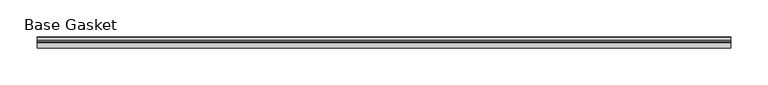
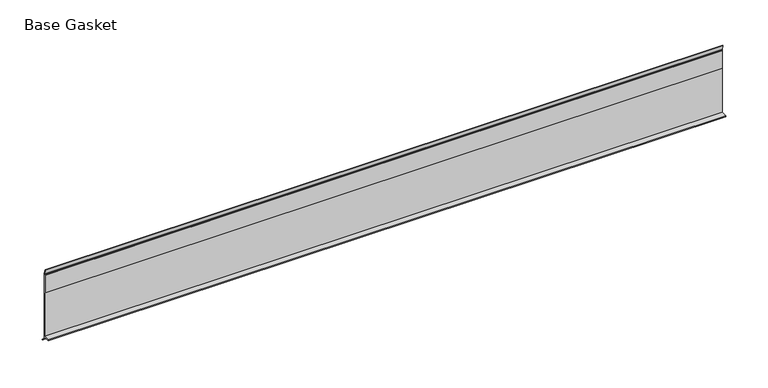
"""IFC4 building model written with IfcOpenShell, lengths in millimetres: furniture geometry, Gasket-Teknion-FHGB-AI_Healthcare-R2021 : Base Gasket."""

from ifc_helpers import new_model, si_unit, frame, origin, place, context, project, spatial, polyline, outline, extrude, source, transform, mapped, element, save


def base_gasket_d89d8d56(model_context):
    return source(origin(), model_context, "Body", "SweptSolid", [
        extrude(outline(polyline([(3.7283812, 98.4568417), (3.7283812, 4.3498477), (7.4222115, 0.6560174), (7.8482342, 0.0), (6.8281054, 0.3520979), (2.2043812, 4.3498477), (2.1334222, 6.3818476), (-6.2405171, 6.3818476), (-6.2405171, 7.9398773), (2.2043812, 7.9398773), (2.2043812, 71.4693447), (1.4106313, 71.4693447), (1.4106313, 96.8693477), (2.2043812, 96.8693477), (2.2043812, 98.4568417), (0.6755308, 104.4162708), (0.6755308, 105.2002997), (1.1891543, 104.587663), (3.7283812, 98.4568417)])), frame((-1527.8982117, 0.0, 0.0), z_axis=(1.0, 0.0, 0.0), x_axis=(0.0, 1.0, 0.0)), (0.0, 0.0, 1.0), 925.1316603),
    ])


if __name__ == "__main__":
    model = new_model("IFC4")
    model_context = context("Model", 3, world=origin())
    ifc_project = project(units=[si_unit("LENGTHUNIT", "METRE", prefix="MILLI")], contexts=[model_context])
    site = spatial("IfcSite", under=ifc_project)
    building = spatial("IfcBuilding", under=site)
    placement = place(None, origin())
    base_gasket_shape = base_gasket_d89d8d56(model_context)
    element("IfcFurniture", 1, ObjectType="Gasket-Teknion-FHGB-AI_Healthcare-R2021 : Base Gasket", at=placement, inside=building, context=model_context, shape_type="MappedRepresentation", body=[
        mapped(base_gasket_shape, transform((0.0, 0.0, 0.0), x_axis=(1.0, 0.0, 0.0), y_axis=(0.0, 1.0, 0.0), z_axis=(0.0, 0.0, 1.0))),
    ])
    save(model, "model.ifc")
